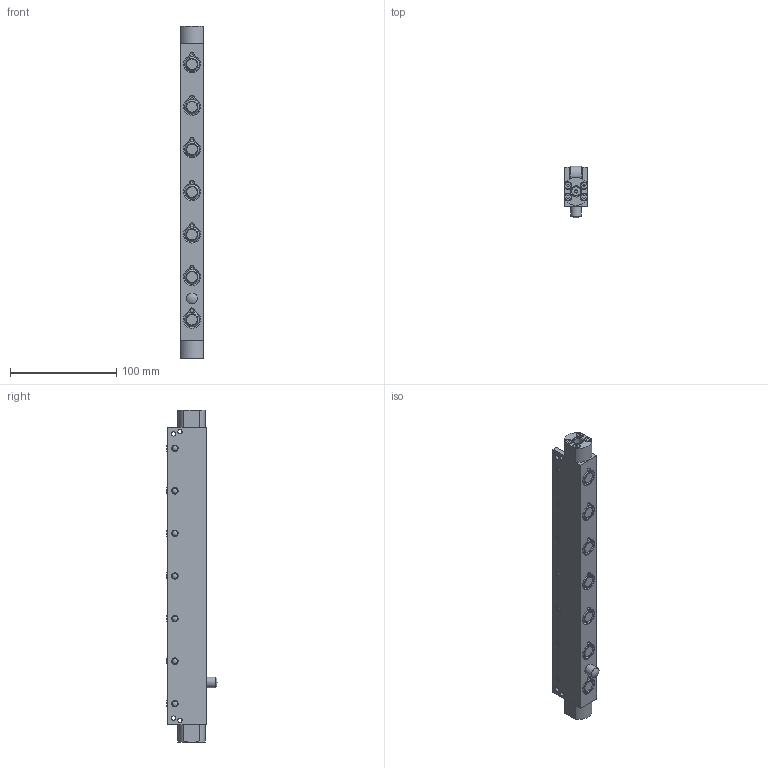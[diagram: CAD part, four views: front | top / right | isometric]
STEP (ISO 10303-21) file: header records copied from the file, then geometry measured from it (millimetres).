
FILE_DESCRIPTION(/* description */ (''),/* implementation_level */ '2;1');
FILE_NAME(/* name */ 'S:\EASCN Vault\Designs\Standard Part\DIE LIFTERS\EHR\EHR- 3D step\EHR22-C - 3D step complete serie\EHR22-07-C.stp',/* time_stamp */ '2019-09-06T13:14:05+08:00',/* author */ ('yue.yang'),/* organization */ (''),/* preprocessor_version */ 'ST-DEVELOPER v17',/* originating_system */ 'Autodesk Inventor 2019',/* authorisation */ '');
FILE_SCHEMA (('AUTOMOTIVE_DESIGN { 1 0 10303 214 3 1 1 }'));
Length unit declared in the file: millimetre
Products named in the file (1): EHR22-07-C_Shrinkwrap_1
Bounding box: 21.8 x 48.05 x 312 mm (x, y, z)
Volume: 186132.5 mm3; surface area: 75737.1 mm2
Topology: 1 solids, 1 shells, 550 faces, 1600 edges, 1105 vertices
Faces by surface type: plane 181, cylinder 177, cone 100, torus 77, sphere 15
Full cylindrical faces by diameter (mm): 3 x10, 3.2 x8, 4 x8, 5 x28, 6 x16, 8.566 x2, 10 x3, 11 x7, 12.5 x14, 13.4 x7, 13.8 x7, 15.95 x14, 16 x21
Entity records: 20098 total; most frequent: CARTESIAN_POINT 4324, DIRECTION 3443, ORIENTED_EDGE 3170, EDGE_CURVE 1585, AXIS2_PLACEMENT_3D 1502, VERTEX_POINT 1105, CIRCLE 951, EDGE_LOOP 664
